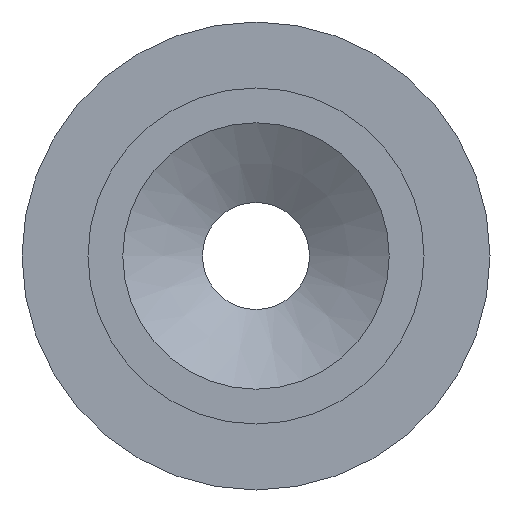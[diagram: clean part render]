
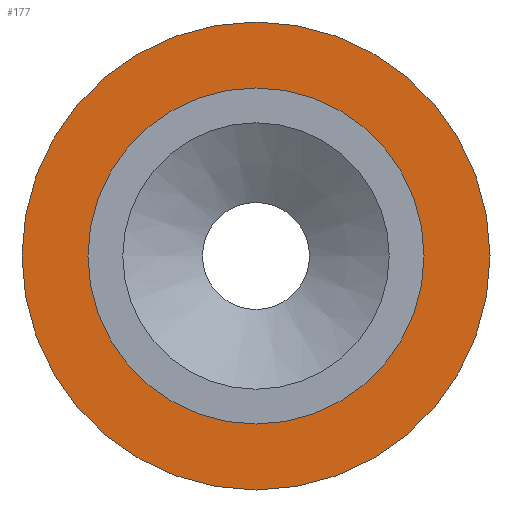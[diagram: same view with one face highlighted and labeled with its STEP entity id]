
A CAD part, left-side view. The second image highlights one B-rep face of the part: STEP entity #177.
In plain terms, the highlighted planar face has unit normal (-1, 0, 0).
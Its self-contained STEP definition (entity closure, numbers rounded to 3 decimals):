
#13=PLANE($,#202);
#32=FACE_BOUND($,#69,.T.);
#52=FACE_OUTER_BOUND($,#68,.T.);
#68=EDGE_LOOP($,(#148));
#69=EDGE_LOOP($,(#149));
#96=CIRCLE($,#200,1.715);
#98=CIRCLE($,#203,2.388);
#112=VERTEX_POINT($,#303);
#114=VERTEX_POINT($,#308);
#128=EDGE_CURVE($,#112,#112,#96,.T.);
#130=EDGE_CURVE($,#114,#114,#98,.T.);
#148=ORIENTED_EDGE($,*,*,#130,.F.);
#149=ORIENTED_EDGE($,*,*,#128,.T.);
#177=ADVANCED_FACE($,(#52,#32),#13,.T.);
#200=AXIS2_PLACEMENT_3D($,#304,#242,#243);
#202=AXIS2_PLACEMENT_3D($,#307,#246,#247);
#203=AXIS2_PLACEMENT_3D($,#309,#248,#249);
#242=DIRECTION('center_axis',(1.,0.,0.));
#243=DIRECTION('ref_axis',(0.,1.,0.));
#246=DIRECTION('center_axis',(-1.,0.,0.));
#247=DIRECTION('ref_axis',(0.,0.,1.));
#248=DIRECTION('center_axis',(1.,0.,0.));
#249=DIRECTION('ref_axis',(0.,1.,0.));
#303=CARTESIAN_POINT('',(3.58,1.715,0.));
#304=CARTESIAN_POINT('Origin',(3.58,0.,0.));
#307=CARTESIAN_POINT('Origin',(3.58,2.051,0.));
#308=CARTESIAN_POINT('',(3.58,2.388,0.));
#309=CARTESIAN_POINT('Origin',(3.58,0.,0.));
